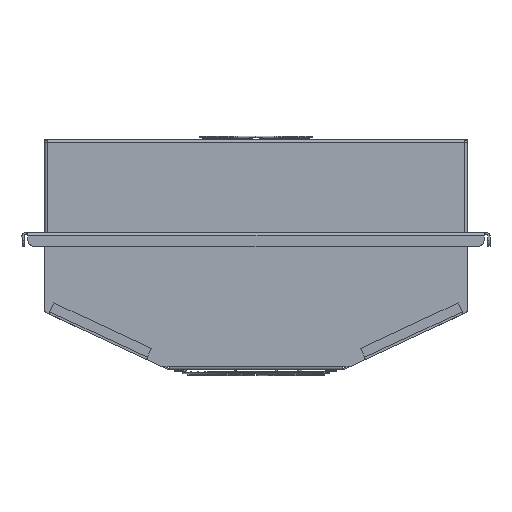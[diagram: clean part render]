
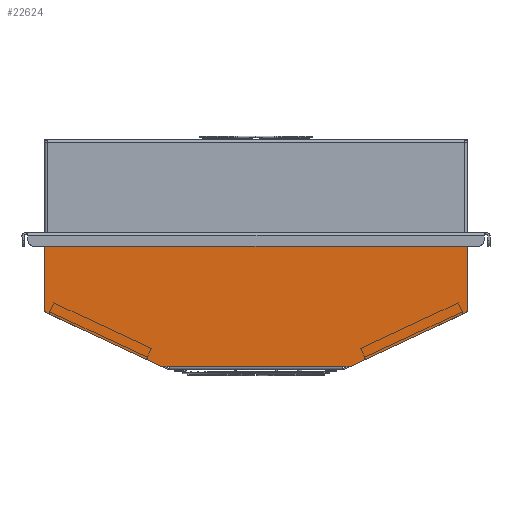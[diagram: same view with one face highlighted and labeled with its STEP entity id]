
A CAD part, front view. The second image highlights one B-rep face of the part: STEP entity #22624.
In plain terms, the highlighted planar face has unit normal (0, -1, 0).
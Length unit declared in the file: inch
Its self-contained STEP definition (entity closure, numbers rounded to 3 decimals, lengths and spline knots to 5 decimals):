
#1198=VECTOR('',#30891,1.);
#1210=VECTOR('',#30910,1.);
#1301=VECTOR('',#31153,1.);
#1462=VECTOR('',#31456,1.);
#1470=VECTOR('',#31486,1.);
#1475=VECTOR('',#31500,1.);
#1477=VECTOR('',#31503,1.);
#1478=VECTOR('',#31505,1.);
#1480=VECTOR('',#31508,1.);
#1486=VECTOR('',#31520,1.);
#2354=LINE('',#40045,#1198);
#2366=LINE('',#40072,#1210);
#2457=LINE('',#40315,#1301);
#2618=LINE('',#40703,#1462);
#2626=LINE('',#40731,#1470);
#2631=LINE('',#40744,#1475);
#2633=LINE('',#40748,#1477);
#2634=LINE('',#40750,#1478);
#2636=LINE('',#40754,#1480);
#2642=LINE('',#40765,#1486);
#3120=PLANE('',#25590);
#5392=VERTEX_POINT('',#40031);
#5393=VERTEX_POINT('',#40033);
#5397=VERTEX_POINT('',#40044);
#5407=VERTEX_POINT('',#40068);
#5408=VERTEX_POINT('',#40069);
#5409=VERTEX_POINT('',#40073);
#5598=VERTEX_POINT('',#40702);
#5599=VERTEX_POINT('',#40704);
#5606=VERTEX_POINT('',#40730);
#5607=VERTEX_POINT('',#40732);
#5609=VERTEX_POINT('',#40745);
#5610=VERTEX_POINT('',#40751);
#7319=CIRCLE('',#25368,0.125);
#7322=CIRCLE('',#25375,0.125);
#10033=EDGE_CURVE('',#5392,#5393,#7319,.T.);
#10040=EDGE_CURVE('',#5397,#5392,#2354,.T.);
#10051=EDGE_CURVE('',#5407,#5408,#7322,.T.);
#10054=EDGE_CURVE('',#5408,#5409,#2366,.T.);
#10187=EDGE_CURVE('',#5409,#5397,#2457,.T.);
#10385=EDGE_CURVE('',#5599,#5598,#2618,.T.);
#10403=EDGE_CURVE('',#5607,#5606,#2626,.T.);
#10409=EDGE_CURVE('',#5609,#5607,#2631,.T.);
#10411=EDGE_CURVE('',#5407,#5609,#2633,.T.);
#10412=EDGE_CURVE('',#5610,#5393,#2634,.T.);
#10414=EDGE_CURVE('',#5598,#5610,#2636,.T.);
#10420=EDGE_CURVE('',#5599,#5606,#2642,.T.);
#16281=ORIENTED_EDGE('',*,*,#10033,.F.);
#16282=ORIENTED_EDGE('',*,*,#10040,.F.);
#16283=ORIENTED_EDGE('',*,*,#10187,.F.);
#16284=ORIENTED_EDGE('',*,*,#10054,.F.);
#16285=ORIENTED_EDGE('',*,*,#10051,.F.);
#16286=ORIENTED_EDGE('',*,*,#10411,.T.);
#16287=ORIENTED_EDGE('',*,*,#10409,.T.);
#16288=ORIENTED_EDGE('',*,*,#10403,.T.);
#16289=ORIENTED_EDGE('',*,*,#10420,.F.);
#16290=ORIENTED_EDGE('',*,*,#10385,.T.);
#16291=ORIENTED_EDGE('',*,*,#10414,.T.);
#16292=ORIENTED_EDGE('',*,*,#10412,.T.);
#19162=EDGE_LOOP('',(#16281,#16282,#16283,#16284,#16285,#16286,#16287,#16288,
#16289,#16290,#16291,#16292));
#21171=FACE_BOUND('',#19162,.T.);
#22624=ADVANCED_FACE('',(#21171),#3120,.F.);
#25368=AXIS2_PLACEMENT_3D('',#40032,#30880,#30881);
#25375=AXIS2_PLACEMENT_3D('',#40067,#30906,#30907);
#25590=AXIS2_PLACEMENT_3D('',#40764,#31519,$);
#30880=DIRECTION('',(0.,1.,0.));
#30881=DIRECTION('',(0.105,0.,-0.067));
#30891=DIRECTION('',(0.,0.,-1.));
#30906=DIRECTION('',(0.,1.,0.));
#30907=DIRECTION('',(-0.105,0.,-0.067));
#30910=DIRECTION('',(0.,0.,1.));
#31153=DIRECTION('',(1.,0.,0.));
#31456=DIRECTION('',(0.,0.,1.));
#31486=DIRECTION('',(0.,0.,-1.));
#31500=DIRECTION('',(1.,0.,0.));
#31503=DIRECTION('',(0.906,0.,-0.423));
#31505=DIRECTION('',(0.906,0.,0.423));
#31508=DIRECTION('',(1.,0.,0.));
#31519=DIRECTION('',(0.,1.,0.));
#31520=DIRECTION('',(-1.,0.,0.));
#40031=CARTESIAN_POINT('',(18.575,2.042,-3.13533));
#40032=CARTESIAN_POINT('',(18.45,2.042,-3.13533));
#40033=CARTESIAN_POINT('',(18.50283,2.042,-3.24862));
#40044=CARTESIAN_POINT('',(18.575,2.042,-0.0945));
#40045=CARTESIAN_POINT('',(18.575,2.042,-5.56413));
#40067=CARTESIAN_POINT('',(1.075,2.042,-3.13533));
#40068=CARTESIAN_POINT('',(1.02217,2.042,-3.24862));
#40069=CARTESIAN_POINT('',(0.95,2.042,-3.13533));
#40072=CARTESIAN_POINT('',(0.95,2.042,0.));
#40073=CARTESIAN_POINT('',(0.95,2.042,-0.0945));
#40315=CARTESIAN_POINT('',(9.7625,2.042,-0.0945));
#40702=CARTESIAN_POINT('',(13.3875,2.042,-5.4927));
#40703=CARTESIAN_POINT('',(13.3875,2.042,-4.13817));
#40704=CARTESIAN_POINT('',(13.3875,2.042,-5.49585));
#40730=CARTESIAN_POINT('',(6.1375,2.042,-5.49585));
#40731=CARTESIAN_POINT('',(6.1375,2.042,-4.13817));
#40732=CARTESIAN_POINT('',(6.1375,2.042,-5.4927));
#40744=CARTESIAN_POINT('',(7.87428,2.042,-5.4927));
#40745=CARTESIAN_POINT('',(5.83463,2.042,-5.4927));
#40748=CARTESIAN_POINT('',(5.70752,2.042,-5.43343));
#40750=CARTESIAN_POINT('',(13.81748,2.042,-5.43343));
#40751=CARTESIAN_POINT('',(13.69037,2.042,-5.4927));
#40754=CARTESIAN_POINT('',(11.65072,2.042,-5.4927));
#40764=CARTESIAN_POINT('',(9.7625,2.042,-2.78207));
#40765=CARTESIAN_POINT('',(9.7625,2.042,-5.49585));
